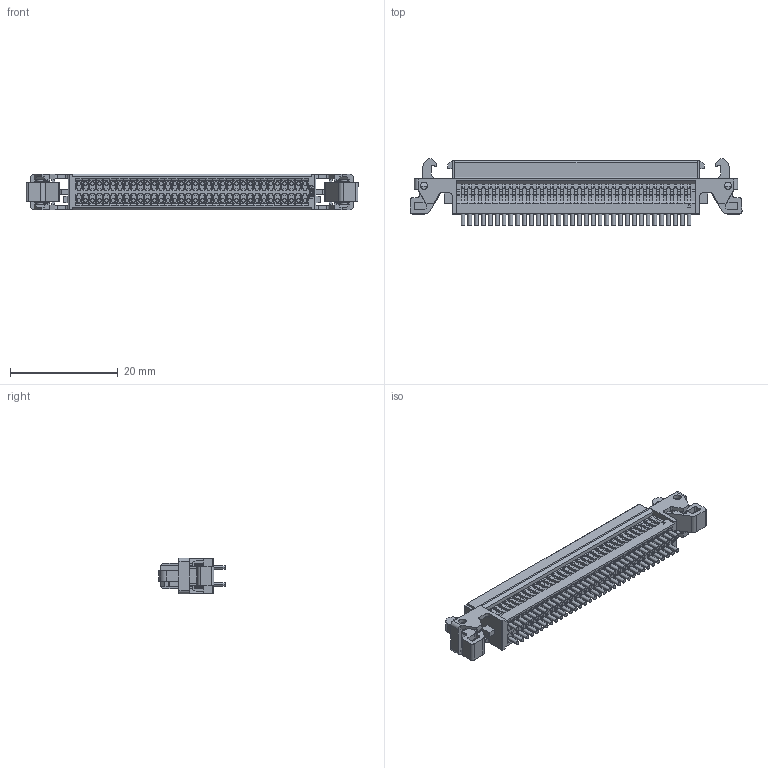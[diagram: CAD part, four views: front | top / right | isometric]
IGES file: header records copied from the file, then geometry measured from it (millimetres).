
Start section: Elysium IGES Interface
Global section: file name: 69HC:\Users\1314\Desktop\temp\回覧用-一時的\8929\68\P3C988_8929E-068.igs; native system: Creo Elements/Direct Modeling 19.0F  14-Feb-2017; preprocessor: Creo Element/Direct IGES_3D V2.2; author: Unknown; organization: Unknown; date: 20171013.142923; units: millimetre
Bounding box: 61.51 x 12.25 x 6.6 mm (x, y, z)
Volume: 2440.5 mm3; surface area: 3207.6 mm2
Topology: 1 solids, 1 shells, 3125 faces, 8298 edges, 5474 vertices
Faces by surface type: bspline 3125
